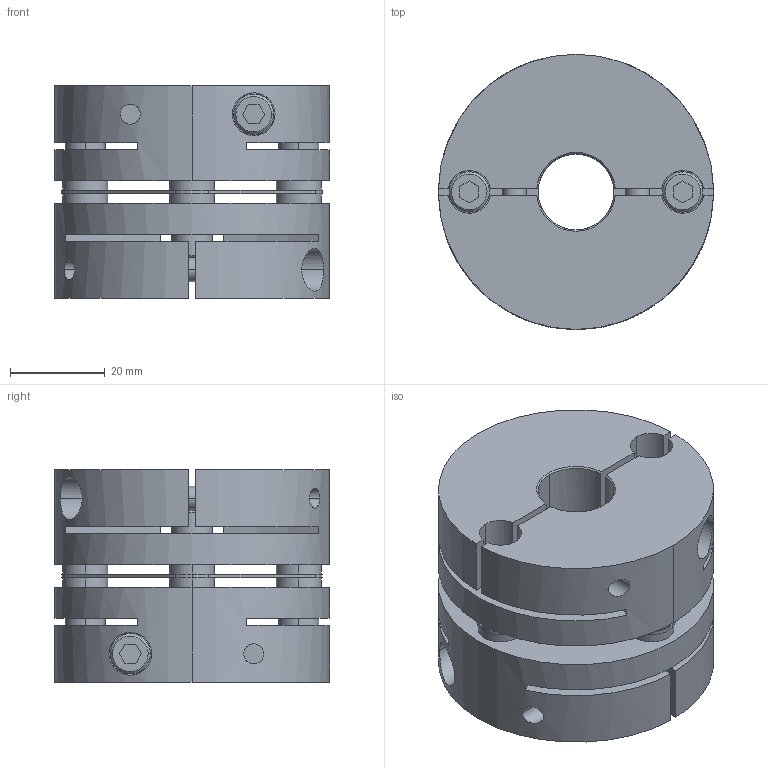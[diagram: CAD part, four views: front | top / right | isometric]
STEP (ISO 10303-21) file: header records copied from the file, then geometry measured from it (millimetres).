
FILE_DESCRIPTION((''),'2;1');
FILE_NAME('LAS-58C-16×16.stp','2011-08-09T15:19:24',(''),(''),'AutoCAD STEP 2000i','AutoCAD 2000i',', , ');
FILE_SCHEMA(('CONFIG_CONTROL_DESIGN'));
Length unit declared in the file: millimetre
Products named in the file (5): LAS-58C-12×12; 忣兜1; LA-5802-D12-1; LA-5802-D12; LAS58-ITA
Assembly tree (4 placements, depth 2):
  LAS-58C-12×12
    忣兜1
    LA-5802-D12-1
    LA-5802-D12
    LAS58-ITA
Bounding box: 58 x 58 x 44.8 mm (x, y, z)
Volume: 87503.3 mm3; surface area: 33742.6 mm2
Topology: 1 solids, 1 shells, 236 faces, 600 edges, 392 vertices
Faces by surface type: plane 112, cylinder 96, cone 28
Entity records: 7859 total; most frequent: CARTESIAN_POINT 1777, DIRECTION 1294, ORIENTED_EDGE 1200, EDGE_CURVE 600, AXIS2_PLACEMENT_3D 477, VERTEX_POINT 392, VECTOR 340, LINE 340
